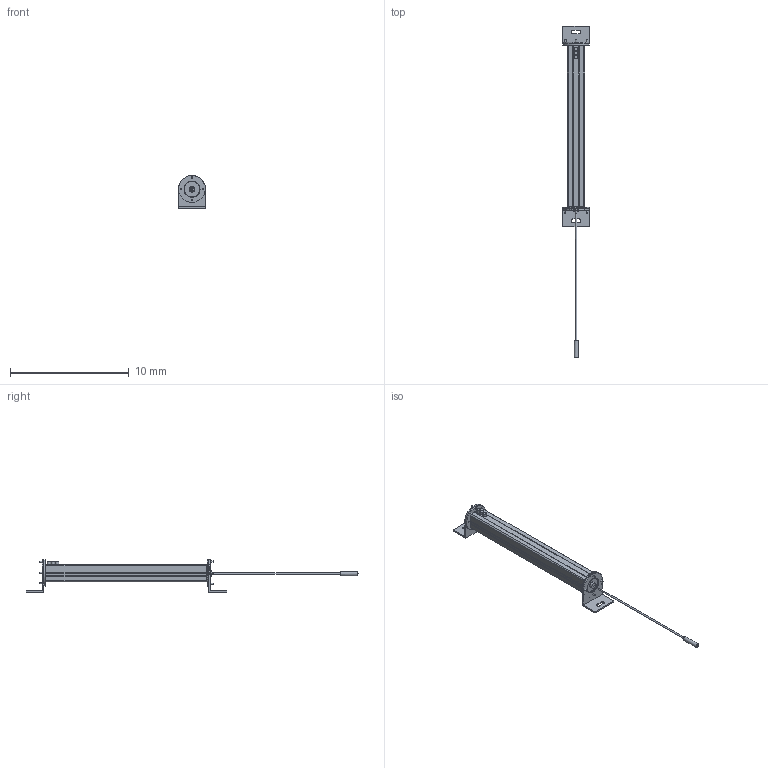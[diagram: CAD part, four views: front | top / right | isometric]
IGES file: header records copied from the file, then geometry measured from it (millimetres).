
Start section:  Autodesk DirectConnect version 7.0.27.0 ---- IGES version 5.3
Global section: file name: C:\ACADFILES\SS_PYLONS\CUSTOMER_FILES\SS-12-PYLON_3D_SMB.iges; native system: Autodesk DirectConnect 7.0.27.0; preprocessor: 7.0.27.0; author: ENGINEERMAIN; organization: Unknown; date: 20150810.123733; units: millimetre
Bounding box: 2.26 x 28.01 x 2.75 mm (x, y, z)
Surface area: 269.4 mm2 (no closed solid volume)
Topology: 0 solids, 0 shells, 754 faces, 3833 edges, 3829 vertices
Faces by surface type: bspline 754
